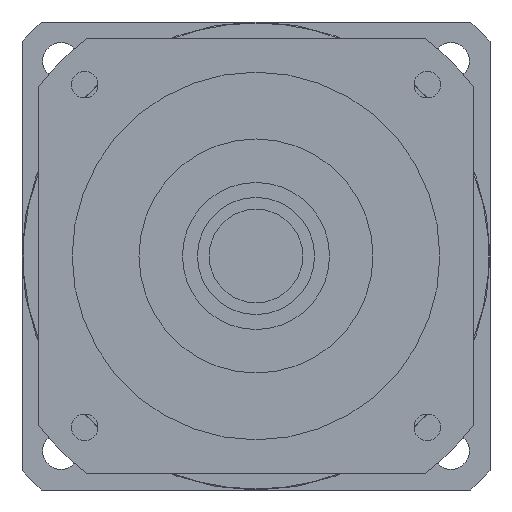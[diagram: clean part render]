
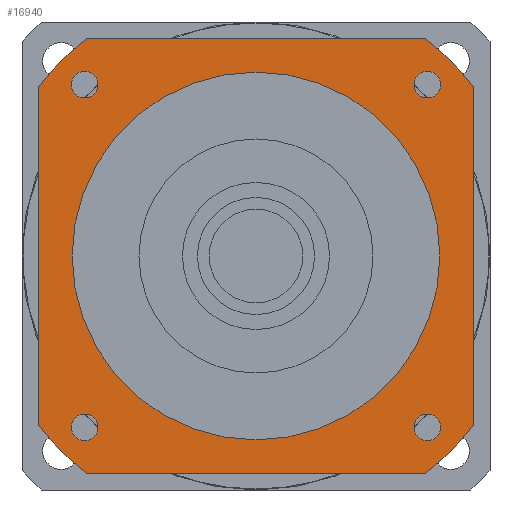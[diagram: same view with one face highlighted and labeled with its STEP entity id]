
A CAD part, left-side view. The second image highlights one B-rep face of the part: STEP entity #16940.
In plain terms, the highlighted planar face has unit normal (-1, 0, 0) as drawn and (0, 0, -1) by its records, which use the part's own axes.
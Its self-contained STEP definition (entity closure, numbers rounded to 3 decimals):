
#15240=CARTESIAN_POINT('',(55.265,-51.265,-87.7));
#15250=VERTEX_POINT('',#15240);
#15280=CARTESIAN_POINT('',(51.265,-51.265,-87.7));
#15290=DIRECTION('',(0.,0.,-1.));
#15300=DIRECTION('',(1.,0.,0.));
#15310=AXIS2_PLACEMENT_3D('',#15280,#15290,#15300);
#15320=CIRCLE('',#15310,4.);
#15330=CARTESIAN_POINT('',(47.265,-51.265,-87.7));
#15340=VERTEX_POINT('',#15330);
#15350=EDGE_CURVE('',#15340,#15250,#15320,.T.);
#15500=CARTESIAN_POINT('',(65.,65.,-87.7));
#15510=DIRECTION('',(0.,0.,-1.));
#15520=DIRECTION('',(1.,0.,0.));
#15530=AXIS2_PLACEMENT_3D('',#15500,#15510,#15520);
#15540=PLANE('',#15530);
#15550=CARTESIAN_POINT('',(-51.265,-51.265,-87.7));
#15560=DIRECTION('',(0.,0.,-1.));
#15570=DIRECTION('',(0.,-1.,0.));
#15580=AXIS2_PLACEMENT_3D('',#15550,#15560,#15570);
#15590=CIRCLE('',#15580,4.);
#15600=CARTESIAN_POINT('',(-51.265,-55.265,-87.7));
#15610=VERTEX_POINT('',#15600);
#15620=CARTESIAN_POINT('',(-51.265,-47.265,-87.7));
#15630=VERTEX_POINT('',#15620);
#15640=EDGE_CURVE('',#15610,#15630,#15590,.T.);
#15650=ORIENTED_EDGE('',*,*,#15640,.F.);
#15660=EDGE_CURVE('',#15630,#15610,#15590,.T.);
#15670=ORIENTED_EDGE('',*,*,#15660,.F.);
#15680=EDGE_LOOP('',(#15670,#15650));
#15690=FACE_BOUND('',#15680,.T.);
#15700=CARTESIAN_POINT('',(-51.265,51.265,-87.7));
#15710=DIRECTION('',(0.,0.,-1.));
#15720=DIRECTION('',(-1.,0.,0.));
#15730=AXIS2_PLACEMENT_3D('',#15700,#15710,#15720);
#15740=CIRCLE('',#15730,4.);
#15750=CARTESIAN_POINT('',(-55.265,51.265,-87.7));
#15760=VERTEX_POINT('',#15750);
#15770=CARTESIAN_POINT('',(-47.265,51.265,-87.7));
#15780=VERTEX_POINT('',#15770);
#15790=EDGE_CURVE('',#15760,#15780,#15740,.T.);
#15800=ORIENTED_EDGE('',*,*,#15790,.F.);
#15810=EDGE_CURVE('',#15780,#15760,#15740,.T.);
#15820=ORIENTED_EDGE('',*,*,#15810,.F.);
#15830=EDGE_LOOP('',(#15820,#15800));
#15840=FACE_BOUND('',#15830,.T.);
#15850=CARTESIAN_POINT('',(51.265,51.265,-87.7));
#15860=DIRECTION('',(0.,0.,-1.));
#15870=DIRECTION('',(0.,1.,0.));
#15880=AXIS2_PLACEMENT_3D('',#15850,#15860,#15870);
#15890=CIRCLE('',#15880,4.);
#15900=CARTESIAN_POINT('',(51.265,55.265,-87.7));
#15910=VERTEX_POINT('',#15900);
#15920=CARTESIAN_POINT('',(51.265,47.265,-87.7));
#15930=VERTEX_POINT('',#15920);
#15940=EDGE_CURVE('',#15910,#15930,#15890,.T.);
#15950=ORIENTED_EDGE('',*,*,#15940,.F.);
#15960=EDGE_CURVE('',#15930,#15910,#15890,.T.);
#15970=ORIENTED_EDGE('',*,*,#15960,.F.);
#15980=EDGE_LOOP('',(#15970,#15950));
#15990=FACE_BOUND('',#15980,.T.);
#16000=CARTESIAN_POINT('',(0.,0.,
-87.7));
#16010=DIRECTION('',(0.,0.,1.));
#16020=DIRECTION('',(0.,1.,0.));
#16030=AXIS2_PLACEMENT_3D('',#16000,#16010,#16020);
#16040=CIRCLE('',#16030,55.);
#16050=CARTESIAN_POINT('',(-55.,0.,-87.7));
#16060=VERTEX_POINT('',#16050);
#16070=CARTESIAN_POINT('',(55.,0.,-87.7));
#16080=VERTEX_POINT('',#16070);
#16090=EDGE_CURVE('',#16060,#16080,#16040,.T.);
#16100=ORIENTED_EDGE('',*,*,#16090,.T.);
#16110=CARTESIAN_POINT('',(0.,55.,-87.7));
#16120=VERTEX_POINT('',#16110);
#16130=EDGE_CURVE('',#16120,#16060,#16040,.T.);
#16140=ORIENTED_EDGE('',*,*,#16130,.T.);
#16150=EDGE_CURVE('',#16080,#16120,#16040,.T.);
#16160=ORIENTED_EDGE('',*,*,#16150,.T.);
#16170=EDGE_LOOP('',(#16160,#16140,#16100));
#16180=FACE_BOUND('',#16170,.T.);
#16190=CARTESIAN_POINT('',(-65.,65.,-87.7));
#16200=DIRECTION('',(1.,0.,0.));
#16210=VECTOR('',#16200,1000.);
#16220=LINE('',#16190,#16210);
#16230=CARTESIAN_POINT('',(-50.806,65.,-87.7));
#16240=VERTEX_POINT('',#16230);
#16250=CARTESIAN_POINT('',(50.806,65.,-87.7));
#16260=VERTEX_POINT('',#16250);
#16270=EDGE_CURVE('',#16240,#16260,#16220,.T.);
#16280=ORIENTED_EDGE('',*,*,#16270,.T.);
#16290=CARTESIAN_POINT('',(0.,0.,
-87.7));
#16300=DIRECTION('',(0.,0.,-1.));
#16310=DIRECTION('',(1.,0.,0.));
#16320=AXIS2_PLACEMENT_3D('',#16290,#16300,#16310);
#16330=CIRCLE('',#16320,82.5);
#16340=CARTESIAN_POINT('',(-65.,50.806,-87.7));
#16350=VERTEX_POINT('',#16340);
#16360=EDGE_CURVE('',#16350,#16240,#16330,.T.);
#16370=ORIENTED_EDGE('',*,*,#16360,.T.);
#16380=CARTESIAN_POINT('',(-65.,-65.,-87.7));
#16390=DIRECTION('',(0.,1.,0.));
#16400=VECTOR('',#16390,1000.);
#16410=LINE('',#16380,#16400);
#16420=CARTESIAN_POINT('',(-65.,-50.806,-87.7));
#16430=VERTEX_POINT('',#16420);
#16440=EDGE_CURVE('',#16430,#16350,#16410,.T.);
#16450=ORIENTED_EDGE('',*,*,#16440,.T.);
#16460=CARTESIAN_POINT('',(0.,0.,
-87.7));
#16470=DIRECTION('',(0.,0.,-1.));
#16480=DIRECTION('',(1.,0.,0.));
#16490=AXIS2_PLACEMENT_3D('',#16460,#16470,#16480);
#16500=CIRCLE('',#16490,82.5);
#16510=CARTESIAN_POINT('',(-50.806,-65.,-87.7));
#16520=VERTEX_POINT('',#16510);
#16530=EDGE_CURVE('',#16520,#16430,#16500,.T.);
#16540=ORIENTED_EDGE('',*,*,#16530,.T.);
#16550=CARTESIAN_POINT('',(65.,-65.,-87.7));
#16560=DIRECTION('',(-1.,0.,0.));
#16570=VECTOR('',#16560,1000.);
#16580=LINE('',#16550,#16570);
#16590=CARTESIAN_POINT('',(50.806,-65.,-87.7));
#16600=VERTEX_POINT('',#16590);
#16610=EDGE_CURVE('',#16600,#16520,#16580,.T.);
#16620=ORIENTED_EDGE('',*,*,#16610,.T.);
#16630=CARTESIAN_POINT('',(0.,0.,
-87.7));
#16640=DIRECTION('',(0.,0.,-1.));
#16650=DIRECTION('',(1.,0.,0.));
#16660=AXIS2_PLACEMENT_3D('',#16630,#16640,#16650);
#16670=CIRCLE('',#16660,82.5);
#16680=CARTESIAN_POINT('',(65.,-50.806,-87.7));
#16690=VERTEX_POINT('',#16680);
#16700=EDGE_CURVE('',#16690,#16600,#16670,.T.);
#16710=ORIENTED_EDGE('',*,*,#16700,.T.);
#16720=CARTESIAN_POINT('',(65.,65.,-87.7));
#16730=DIRECTION('',(0.,-1.,0.));
#16740=VECTOR('',#16730,1000.);
#16750=LINE('',#16720,#16740);
#16760=CARTESIAN_POINT('',(65.,50.806,-87.7));
#16770=VERTEX_POINT('',#16760);
#16780=EDGE_CURVE('',#16770,#16690,#16750,.T.);
#16790=ORIENTED_EDGE('',*,*,#16780,.T.);
#16800=CARTESIAN_POINT('',(0.,0.,
-87.7));
#16810=DIRECTION('',(0.,0.,-1.));
#16820=DIRECTION('',(1.,0.,0.));
#16830=AXIS2_PLACEMENT_3D('',#16800,#16810,#16820);
#16840=CIRCLE('',#16830,82.5);
#16850=EDGE_CURVE('',#16260,#16770,#16840,.T.);
#16860=ORIENTED_EDGE('',*,*,#16850,.T.);
#16870=EDGE_LOOP('',(#16860,#16790,#16710,#16620,#16540,#16450,#16370,
#16280));
#16880=FACE_OUTER_BOUND('',#16870,.T.);
#16890=EDGE_CURVE('',#15250,#15340,#15320,.T.);
#16900=ORIENTED_EDGE('',*,*,#16890,.F.);
#16910=ORIENTED_EDGE('',*,*,#15350,.F.);
#16920=EDGE_LOOP('',(#16910,#16900));
#16930=FACE_BOUND('',#16920,.T.);
#16940=ADVANCED_FACE('',(#15690,#15840,#15990,#16180,#16880,#16930),
#15540,.T.);
